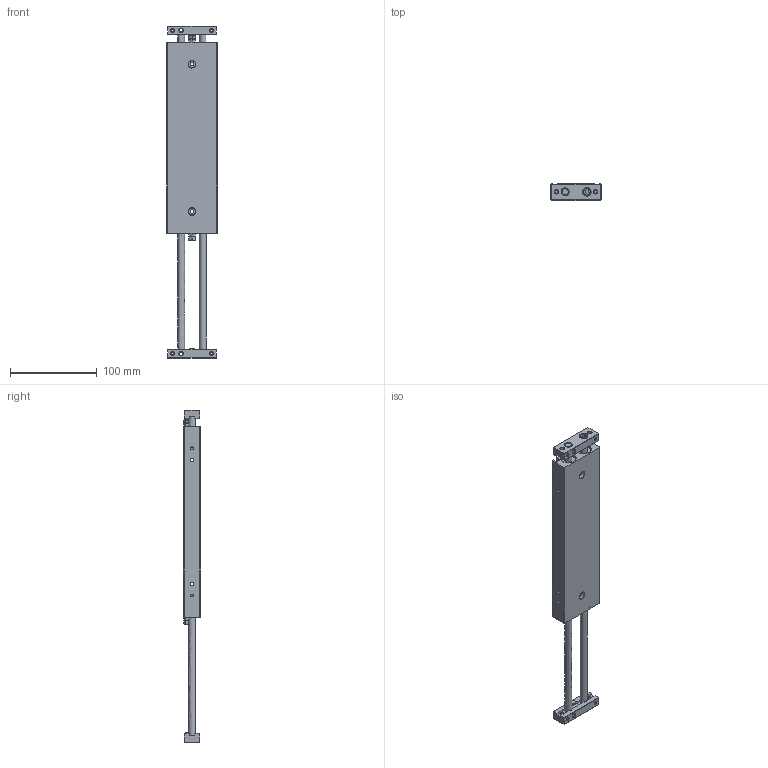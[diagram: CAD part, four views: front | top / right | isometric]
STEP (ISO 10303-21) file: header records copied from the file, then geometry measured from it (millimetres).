
FILE_DESCRIPTION((''),'2;1');
FILE_NAME('I:\3D電子目錄\氣缸\STX\STX\STX16\STX16x125.stp','2007-10-01T17:20:26',('Administrator'),(''),'Autodesk Inventor 11','Autodesk Inventor 11','');
FILE_SCHEMA(('AUTOMOTIVE_DESIGN { 1 0 10303 214 1 1 1 1 }'));
Length unit declared in the file: millimetre
Products named in the file (1): STX16
Bounding box: 58 x 20 x 383 mm (x, y, z)
Volume: 267563.1 mm3; surface area: 62050.7 mm2
Topology: 1 solids, 1 shells, 267 faces, 674 edges, 423 vertices
Faces by surface type: plane 130, cone 76, bspline 36, cylinder 21, torus 4
Full cylindrical faces by diameter (mm): 3.242 x2, 6 x2, 8 x6, 8.2 x2, 8.5 x2, 9 x2, 17 x2, 18 x2
Entity records: 8177 total; most frequent: CARTESIAN_POINT 2631, ORIENTED_EDGE 1088, DIRECTION 1066, EDGE_CURVE 544, EDGE_LOOP 414, AXIS2_PLACEMENT_3D 403, VERTEX_POINT 380, FACE_OUTER_BOUND 266
